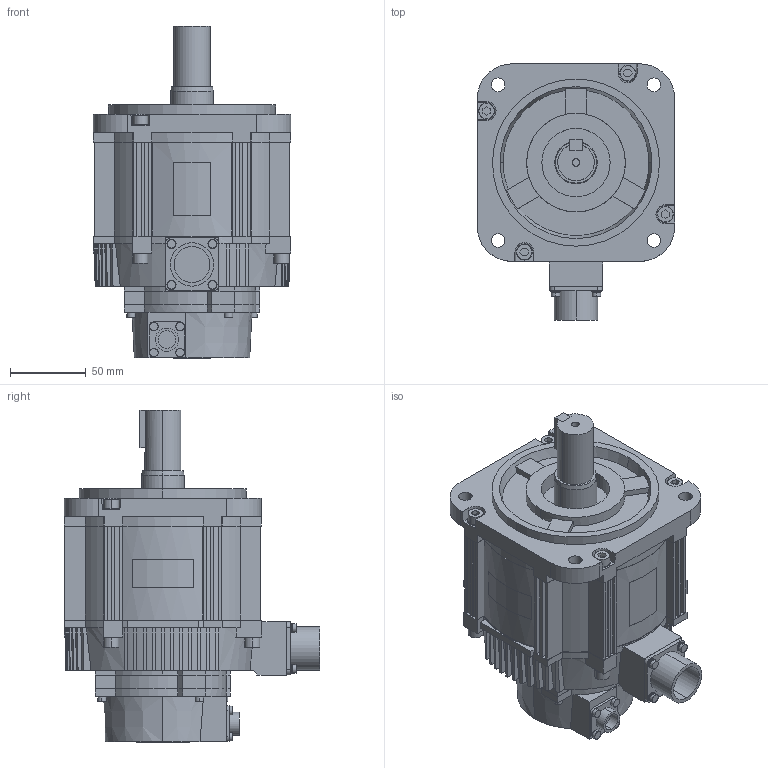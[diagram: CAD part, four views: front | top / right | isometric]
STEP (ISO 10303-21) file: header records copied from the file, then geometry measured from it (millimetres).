
FILE_DESCRIPTION (( 'STEP AP203' ), '1' );
FILE_NAME ('sgm7g_13a6a61.STEP', '2016-11-12T04:50:51', ( '匠エンジニアリング山之内' ), ( 'TAKUMI-Engniaring' ), 'SwSTEP 2.0', 'SolidWorks 2006303', '' );
FILE_SCHEMA (( 'CONFIG_CONTROL_DESIGN' ));
Length unit declared in the file: millimetre
Products named in the file (3): sgm7g_13a6a61_key; sgm7g_13a6a61; sgm7g_13a6a61_base
Assembly tree (2 placements, depth 2):
  sgm7g_13a6a61
    sgm7g_13a6a61_base
    sgm7g_13a6a61_key
Bounding box: 130 x 168.49 x 218.6 mm (x, y, z)
Volume: 1873053.1 mm3; surface area: 147853 mm2
Topology: 2 solids, 2 shells, 814 faces, 2138 edges, 1396 vertices
Faces by surface type: plane 531, cylinder 195, cone 88
Entity records: 25848 total; most frequent: CARTESIAN_POINT 5154, ORIENTED_EDGE 4276, DIRECTION 4247, EDGE_CURVE 2138, AXIS2_PLACEMENT_3D 1453, VERTEX_POINT 1396, LINE 1341, VECTOR 1341
